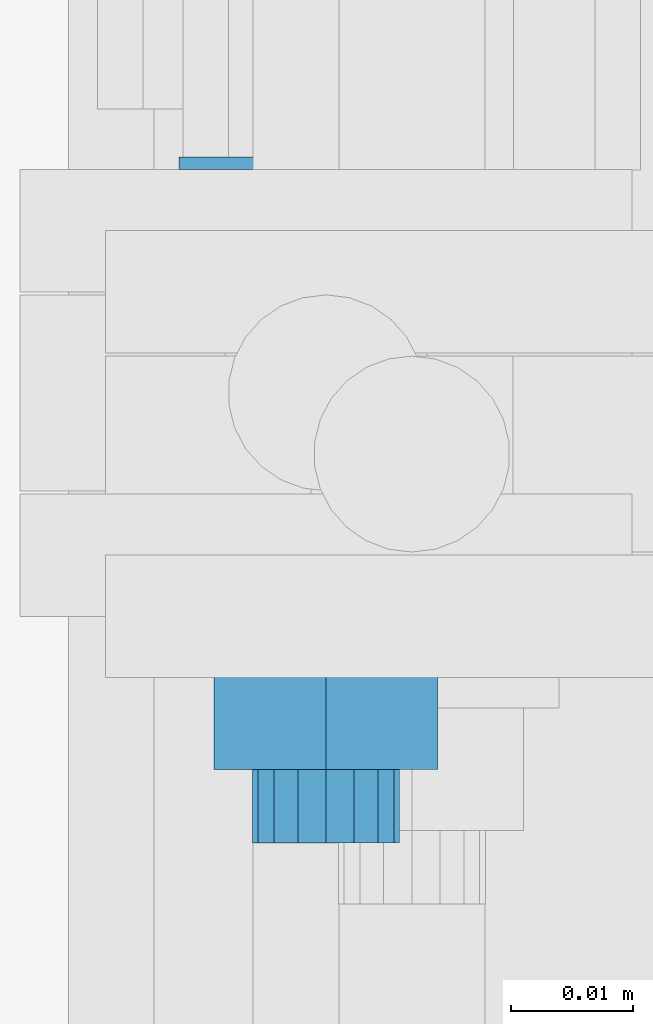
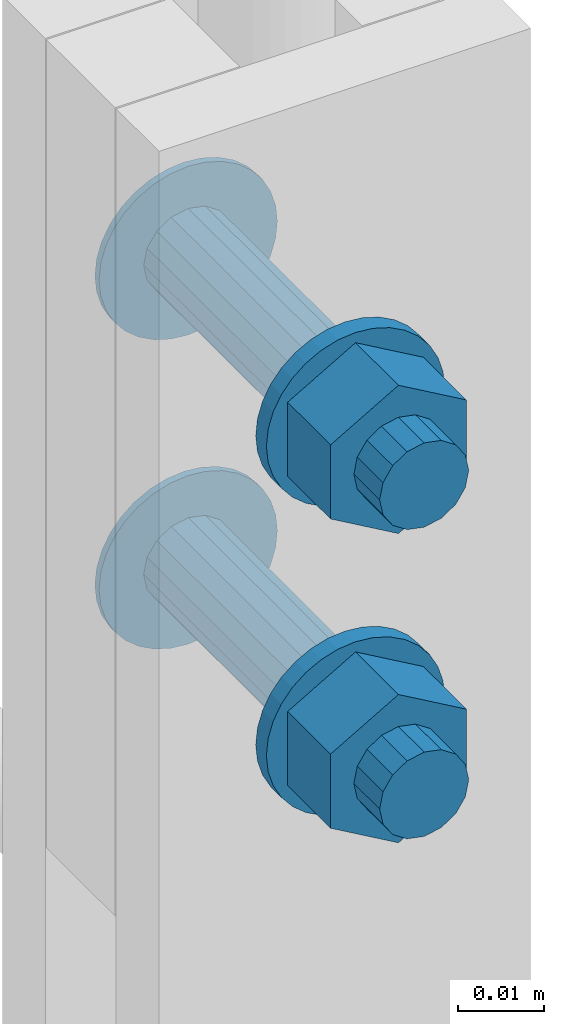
# One storey, part 93 of 98: 1 mechanical fastener.
"""IFC2X3 building model written with IfcOpenShell, lengths in millimetres."""

from ifc_helpers import new_model, entity, si_unit, converted_unit, origin_with_axes, place, context, project, spatial, faceted_brep, element, save


model = new_model("IFC2X3")

# Units and contexts
model_context = context("Model", 3, precision=1e-09, world=origin_with_axes())
ifc_project = project(units=[si_unit("LENGTHUNIT", "METRE", prefix="MILLI"), si_unit("AREAUNIT", "SQUARE_METRE"), si_unit("VOLUMEUNIT", "CUBIC_METRE"), converted_unit("PLANEANGLEUNIT", "DEGREE", entity("IfcPlaneAngleMeasure", 0.01745329), si_unit("PLANEANGLEUNIT", "RADIAN"), dimensions=[0, 0, 0, 0, 0, 0, 0])], contexts=[model_context])

# Site, building, storey
site_placement = place(None, origin_with_axes())
site = spatial("IfcSite", under=ifc_project, at=site_placement, Name="Maybachstra?e 2, 71563 Affalterbach", CompositionType="ELEMENT")
building_placement = place(site_placement, origin_with_axes())
building = spatial("IfcBuilding", under=site, at=building_placement, Name="Struktur 1", CompositionType="ELEMENT")
storey_placement = place(building_placement, origin_with_axes())
storey = spatial("IfcBuildingStorey", under=building, at=storey_placement, Name="Default Storey", CompositionType="ELEMENT", Elevation=0.0)

# Mechanical fastener
mechanical_fastener_placement = place(None, origin_with_axes())
element("IfcMechanicalFastener", 1, at=mechanical_fastener_placement, inside=storey, ObjectType="-", NominalDiameter=12.0, NominalLength=55.0, context=model_context, shape_type="Brep", body=[
    faceted_brep([(12236.032157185, -107.75, 3832.6), (12236.032157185, -108.75, 3832.6), (12235.80158055, -108.75, 3830.258916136), (12235.80158055, -107.75, 3830.258916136), (12235.118711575, -108.75, 3828.007798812), (12235.118711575, -107.75, 3828.007798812), (12234.009792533, -108.75, 3825.933157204), (12234.009792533, -107.75, 3825.933157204), (12232.517438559, -108.75, 3824.114718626), (12232.517438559, -107.75, 3824.114718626), (12230.698999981, -108.75, 3822.622364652), (12230.698999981, -107.75, 3822.622364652), (12228.624358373, -108.75, 3821.51344561), (12228.624358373, -107.75, 3821.51344561), (12226.373241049, -108.75, 3820.830576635), (12226.373241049, -107.75, 3820.830576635), (12224.032157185, -108.75, 3820.6), (12224.032157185, -107.75, 3820.6), (12221.691073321, -108.75, 3820.830576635), (12221.691073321, -107.75, 3820.830576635), (12219.439955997, -108.75, 3821.51344561), (12219.439955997, -107.75, 3821.51344561), (12217.365314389, -108.75, 3822.622364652), (12217.365314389, -107.75, 3822.622364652), (12215.546875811, -108.75, 3824.114718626), (12215.546875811, -107.75, 3824.114718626), (12214.054521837, -108.75, 3825.933157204), (12214.054521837, -107.75, 3825.933157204), (12212.945602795, -108.75, 3828.007798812), (12212.945602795, -107.75, 3828.007798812), (12212.26273382, -108.75, 3830.258916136), (12212.26273382, -107.75, 3830.258916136), (12212.032157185, -108.75, 3832.6), (12212.032157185, -107.75, 3832.6), (12212.26273382, -108.75, 3834.941083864), (12212.26273382, -107.75, 3834.941083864), (12212.945602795, -108.75, 3837.192201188), (12212.945602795, -107.75, 3837.192201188), (12214.054521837, -108.75, 3839.266842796), (12214.054521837, -107.75, 3839.266842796), (12215.546875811, -108.75, 3841.085281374), (12215.546875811, -107.75, 3841.085281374), (12217.365314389, -108.75, 3842.577635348), (12217.365314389, -107.75, 3842.577635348), (12219.439955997, -108.75, 3843.68655439), (12219.439955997, -107.75, 3843.68655439), (12221.691073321, -108.75, 3844.369423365), (12221.691073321, -107.75, 3844.369423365), (12224.032157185, -108.75, 3844.6), (12224.032157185, -107.75, 3844.6), (12226.373241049, -108.75, 3844.369423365), (12226.373241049, -107.75, 3844.369423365), (12228.624358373, -108.75, 3843.68655439), (12228.624358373, -107.75, 3843.68655439), (12230.698999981, -108.75, 3842.577635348), (12230.698999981, -107.75, 3842.577635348), (12232.517438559, -108.75, 3841.085281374), (12232.517438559, -107.75, 3841.085281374), (12234.009792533, -108.75, 3839.266842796), (12234.009792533, -107.75, 3839.266842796), (12235.118711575, -108.75, 3837.192201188), (12235.118711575, -107.75, 3837.192201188), (12235.80158055, -108.75, 3834.941083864), (12235.80158055, -107.75, 3834.941083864)], [[[0, 1, 2, 3]], [[3, 2, 4, 5]], [[5, 4, 6, 7]], [[7, 6, 8, 9]], [[9, 8, 10, 11]], [[11, 10, 12, 13]], [[13, 12, 14, 15]], [[15, 14, 16, 17]], [[17, 16, 18, 19]], [[19, 18, 20, 21]], [[21, 20, 22, 23]], [[23, 22, 24, 25]], [[25, 24, 26, 27]], [[27, 26, 28, 29]], [[29, 28, 30, 31]], [[31, 30, 32, 33]], [[33, 32, 34, 35]], [[35, 34, 36, 37]], [[37, 36, 38, 39]], [[39, 38, 40, 41]], [[41, 40, 42, 43]], [[43, 42, 44, 45]], [[45, 44, 46, 47]], [[47, 46, 48, 49]], [[49, 48, 50, 51]], [[51, 50, 52, 53]], [[53, 52, 54, 55]], [[55, 54, 56, 57]], [[57, 56, 58, 59]], [[59, 58, 60, 61]], [[61, 60, 62, 63]], [[63, 62, 1, 0]], [[0, 3, 5, 7, 9, 11, 13, 15, 17, 19, 21, 23, 25, 27, 29, 31, 33, 35, 37, 39, 41, 43, 45, 47, 49, 51, 53, 55, 57, 59, 61, 63]], [[1, 62, 60, 58, 56, 54, 52, 50, 48, 46, 44, 42, 40, 38, 36, 34, 32, 30, 28, 26, 24, 22, 20, 18, 16, 14, 12, 10, 8, 6, 4, 2]]]),
    faceted_brep([(12236.032157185, -107.75, 3788.6), (12236.032157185, -108.75, 3788.6), (12235.80158055, -108.75, 3786.258916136), (12235.80158055, -107.75, 3786.258916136), (12235.118711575, -108.75, 3784.007798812), (12235.118711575, -107.75, 3784.007798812), (12234.009792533, -108.75, 3781.933157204), (12234.009792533, -107.75, 3781.933157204), (12232.517438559, -108.75, 3780.114718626), (12232.517438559, -107.75, 3780.114718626), (12230.698999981, -108.75, 3778.622364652), (12230.698999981, -107.75, 3778.622364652), (12228.624358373, -108.75, 3777.51344561), (12228.624358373, -107.75, 3777.51344561), (12226.373241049, -108.75, 3776.830576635), (12226.373241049, -107.75, 3776.830576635), (12224.032157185, -108.75, 3776.6), (12224.032157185, -107.75, 3776.6), (12221.691073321, -108.75, 3776.830576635), (12221.691073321, -107.75, 3776.830576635), (12219.439955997, -108.75, 3777.51344561), (12219.439955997, -107.75, 3777.51344561), (12217.365314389, -108.75, 3778.622364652), (12217.365314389, -107.75, 3778.622364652), (12215.546875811, -108.75, 3780.114718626), (12215.546875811, -107.75, 3780.114718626), (12214.054521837, -108.75, 3781.933157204), (12214.054521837, -107.75, 3781.933157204), (12212.945602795, -108.75, 3784.007798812), (12212.945602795, -107.75, 3784.007798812), (12212.26273382, -108.75, 3786.258916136), (12212.26273382, -107.75, 3786.258916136), (12212.032157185, -108.75, 3788.6), (12212.032157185, -107.75, 3788.6), (12212.26273382, -108.75, 3790.941083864), (12212.26273382, -107.75, 3790.941083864), (12212.945602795, -108.75, 3793.192201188), (12212.945602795, -107.75, 3793.192201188), (12214.054521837, -108.75, 3795.266842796), (12214.054521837, -107.75, 3795.266842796), (12215.546875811, -108.75, 3797.085281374), (12215.546875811, -107.75, 3797.085281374), (12217.365314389, -108.75, 3798.577635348), (12217.365314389, -107.75, 3798.577635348), (12219.439955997, -108.75, 3799.68655439), (12219.439955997, -107.75, 3799.68655439), (12221.691073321, -108.75, 3800.369423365), (12221.691073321, -107.75, 3800.369423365), (12224.032157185, -108.75, 3800.6), (12224.032157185, -107.75, 3800.6), (12226.373241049, -108.75, 3800.369423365), (12226.373241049, -107.75, 3800.369423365), (12228.624358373, -108.75, 3799.68655439), (12228.624358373, -107.75, 3799.68655439), (12230.698999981, -108.75, 3798.577635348), (12230.698999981, -107.75, 3798.577635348), (12232.517438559, -108.75, 3797.085281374), (12232.517438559, -107.75, 3797.085281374), (12234.009792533, -108.75, 3795.266842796), (12234.009792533, -107.75, 3795.266842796), (12235.118711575, -108.75, 3793.192201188), (12235.118711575, -107.75, 3793.192201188), (12235.80158055, -108.75, 3790.941083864), (12235.80158055, -107.75, 3790.941083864)], [[[0, 1, 2, 3]], [[3, 2, 4, 5]], [[5, 4, 6, 7]], [[7, 6, 8, 9]], [[9, 8, 10, 11]], [[11, 10, 12, 13]], [[13, 12, 14, 15]], [[15, 14, 16, 17]], [[17, 16, 18, 19]], [[19, 18, 20, 21]], [[21, 20, 22, 23]], [[23, 22, 24, 25]], [[25, 24, 26, 27]], [[27, 26, 28, 29]], [[29, 28, 30, 31]], [[31, 30, 32, 33]], [[33, 32, 34, 35]], [[35, 34, 36, 37]], [[37, 36, 38, 39]], [[39, 38, 40, 41]], [[41, 40, 42, 43]], [[43, 42, 44, 45]], [[45, 44, 46, 47]], [[47, 46, 48, 49]], [[49, 48, 50, 51]], [[51, 50, 52, 53]], [[53, 52, 54, 55]], [[55, 54, 56, 57]], [[57, 56, 58, 59]], [[59, 58, 60, 61]], [[61, 60, 62, 63]], [[63, 62, 1, 0]], [[0, 3, 5, 7, 9, 11, 13, 15, 17, 19, 21, 23, 25, 27, 29, 31, 33, 35, 37, 39, 41, 43, 45, 47, 49, 51, 53, 55, 57, 59, 61, 63]], [[1, 62, 60, 58, 56, 54, 52, 50, 48, 46, 44, 42, 40, 38, 36, 34, 32, 30, 28, 26, 24, 22, 20, 18, 16, 14, 12, 10, 8, 6, 4, 2]]]),
    faceted_brep([(12230.032157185, -108.75, 3832.6), (12230.032157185, -145.25, 3832.6), (12229.57543438, -145.25, 3830.303899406), (12229.57543438, -108.75, 3830.303899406), (12228.274797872, -145.25, 3828.357359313), (12228.274797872, -108.75, 3828.357359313), (12226.328257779, -145.25, 3827.056722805), (12226.328257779, -108.75, 3827.056722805), (12224.032157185, -145.25, 3826.6), (12224.032157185, -108.75, 3826.6), (12221.736056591, -145.25, 3827.056722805), (12221.736056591, -108.75, 3827.056722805), (12219.789516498, -145.25, 3828.357359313), (12219.789516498, -108.75, 3828.357359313), (12218.48887999, -145.25, 3830.303899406), (12218.48887999, -108.75, 3830.303899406), (12218.032157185, -145.25, 3832.6), (12218.032157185, -108.75, 3832.6), (12218.48887999, -145.25, 3834.896100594), (12218.48887999, -108.75, 3834.896100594), (12219.789516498, -145.25, 3836.842640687), (12219.789516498, -108.75, 3836.842640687), (12221.736056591, -145.25, 3838.143277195), (12221.736056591, -108.75, 3838.143277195), (12224.032157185, -145.25, 3838.6), (12224.032157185, -108.75, 3838.6), (12226.328257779, -145.25, 3838.143277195), (12226.328257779, -108.75, 3838.143277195), (12228.274797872, -145.25, 3836.842640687), (12228.274797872, -108.75, 3836.842640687), (12229.57543438, -145.25, 3834.896100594), (12229.57543438, -108.75, 3834.896100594)], [[[0, 1, 2, 3]], [[3, 2, 4, 5]], [[5, 4, 6, 7]], [[7, 6, 8, 9]], [[9, 8, 10, 11]], [[11, 10, 12, 13]], [[13, 12, 14, 15]], [[15, 14, 16, 17]], [[17, 16, 18, 19]], [[19, 18, 20, 21]], [[21, 20, 22, 23]], [[23, 22, 24, 25]], [[25, 24, 26, 27]], [[27, 26, 28, 29]], [[29, 28, 30, 31]], [[31, 30, 1, 0]], [[0, 3, 5, 7, 9, 11, 13, 15, 17, 19, 21, 23, 25, 27, 29, 31]], [[1, 30, 28, 26, 24, 22, 20, 18, 16, 14, 12, 10, 8, 6, 4, 2]]]),
    faceted_brep([(12230.032157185, -108.75, 3788.6), (12230.032157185, -145.25, 3788.6), (12229.57543438, -145.25, 3786.303899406), (12229.57543438, -108.75, 3786.303899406), (12228.274797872, -145.25, 3784.357359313), (12228.274797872, -108.75, 3784.357359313), (12226.328257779, -145.25, 3783.056722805), (12226.328257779, -108.75, 3783.056722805), (12224.032157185, -145.25, 3782.6), (12224.032157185, -108.75, 3782.6), (12221.736056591, -145.25, 3783.056722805), (12221.736056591, -108.75, 3783.056722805), (12219.789516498, -145.25, 3784.357359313), (12219.789516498, -108.75, 3784.357359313), (12218.48887999, -145.25, 3786.303899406), (12218.48887999, -108.75, 3786.303899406), (12218.032157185, -145.25, 3788.6), (12218.032157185, -108.75, 3788.6), (12218.48887999, -145.25, 3790.896100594), (12218.48887999, -108.75, 3790.896100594), (12219.789516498, -145.25, 3792.842640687), (12219.789516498, -108.75, 3792.842640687), (12221.736056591, -145.25, 3794.143277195), (12221.736056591, -108.75, 3794.143277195), (12224.032157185, -145.25, 3794.6), (12224.032157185, -108.75, 3794.6), (12226.328257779, -145.25, 3794.143277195), (12226.328257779, -108.75, 3794.143277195), (12228.274797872, -145.25, 3792.842640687), (12228.274797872, -108.75, 3792.842640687), (12229.57543438, -145.25, 3790.896100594), (12229.57543438, -108.75, 3790.896100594)], [[[0, 1, 2, 3]], [[3, 2, 4, 5]], [[5, 4, 6, 7]], [[7, 6, 8, 9]], [[9, 8, 10, 11]], [[11, 10, 12, 13]], [[13, 12, 14, 15]], [[15, 14, 16, 17]], [[17, 16, 18, 19]], [[19, 18, 20, 21]], [[21, 20, 22, 23]], [[23, 22, 24, 25]], [[25, 24, 26, 27]], [[27, 26, 28, 29]], [[29, 28, 30, 31]], [[31, 30, 1, 0]], [[0, 3, 5, 7, 9, 11, 13, 15, 17, 19, 21, 23, 25, 27, 29, 31]], [[1, 30, 28, 26, 24, 22, 20, 18, 16, 14, 12, 10, 8, 6, 4, 2]]]),
    faceted_brep([(12236.032157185, -145.25, 3832.6), (12236.032157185, -147.75, 3832.6), (12235.80158055, -147.75, 3830.258916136), (12235.80158055, -145.25, 3830.258916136), (12235.118711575, -147.75, 3828.007798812), (12235.118711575, -145.25, 3828.007798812), (12234.009792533, -147.75, 3825.933157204), (12234.009792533, -145.25, 3825.933157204), (12232.517438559, -147.75, 3824.114718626), (12232.517438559, -145.25, 3824.114718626), (12230.698999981, -147.75, 3822.622364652), (12230.698999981, -145.25, 3822.622364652), (12228.624358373, -147.75, 3821.51344561), (12228.624358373, -145.25, 3821.51344561), (12226.373241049, -147.75, 3820.830576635), (12226.373241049, -145.25, 3820.830576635), (12224.032157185, -147.75, 3820.6), (12224.032157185, -145.25, 3820.6), (12221.691073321, -147.75, 3820.830576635), (12221.691073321, -145.25, 3820.830576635), (12219.439955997, -147.75, 3821.51344561), (12219.439955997, -145.25, 3821.51344561), (12217.365314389, -147.75, 3822.622364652), (12217.365314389, -145.25, 3822.622364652), (12215.546875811, -147.75, 3824.114718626), (12215.546875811, -145.25, 3824.114718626), (12214.054521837, -147.75, 3825.933157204), (12214.054521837, -145.25, 3825.933157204), (12212.945602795, -147.75, 3828.007798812), (12212.945602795, -145.25, 3828.007798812), (12212.26273382, -147.75, 3830.258916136), (12212.26273382, -145.25, 3830.258916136), (12212.032157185, -147.75, 3832.6), (12212.032157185, -145.25, 3832.6), (12212.26273382, -147.75, 3834.941083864), (12212.26273382, -145.25, 3834.941083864), (12212.945602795, -147.75, 3837.192201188), (12212.945602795, -145.25, 3837.192201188), (12214.054521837, -147.75, 3839.266842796), (12214.054521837, -145.25, 3839.266842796), (12215.546875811, -147.75, 3841.085281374), (12215.546875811, -145.25, 3841.085281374), (12217.365314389, -147.75, 3842.577635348), (12217.365314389, -145.25, 3842.577635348), (12219.439955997, -147.75, 3843.68655439), (12219.439955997, -145.25, 3843.68655439), (12221.691073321, -147.75, 3844.369423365), (12221.691073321, -145.25, 3844.369423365), (12224.032157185, -147.75, 3844.6), (12224.032157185, -145.25, 3844.6), (12226.373241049, -147.75, 3844.369423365), (12226.373241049, -145.25, 3844.369423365), (12228.624358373, -147.75, 3843.68655439), (12228.624358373, -145.25, 3843.68655439), (12230.698999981, -147.75, 3842.577635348), (12230.698999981, -145.25, 3842.577635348), (12232.517438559, -147.75, 3841.085281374), (12232.517438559, -145.25, 3841.085281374), (12234.009792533, -147.75, 3839.266842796), (12234.009792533, -145.25, 3839.266842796), (12235.118711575, -147.75, 3837.192201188), (12235.118711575, -145.25, 3837.192201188), (12235.80158055, -147.75, 3834.941083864), (12235.80158055, -145.25, 3834.941083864)], [[[0, 1, 2, 3]], [[3, 2, 4, 5]], [[5, 4, 6, 7]], [[7, 6, 8, 9]], [[9, 8, 10, 11]], [[11, 10, 12, 13]], [[13, 12, 14, 15]], [[15, 14, 16, 17]], [[17, 16, 18, 19]], [[19, 18, 20, 21]], [[21, 20, 22, 23]], [[23, 22, 24, 25]], [[25, 24, 26, 27]], [[27, 26, 28, 29]], [[29, 28, 30, 31]], [[31, 30, 32, 33]], [[33, 32, 34, 35]], [[35, 34, 36, 37]], [[37, 36, 38, 39]], [[39, 38, 40, 41]], [[41, 40, 42, 43]], [[43, 42, 44, 45]], [[45, 44, 46, 47]], [[47, 46, 48, 49]], [[49, 48, 50, 51]], [[51, 50, 52, 53]], [[53, 52, 54, 55]], [[55, 54, 56, 57]], [[57, 56, 58, 59]], [[59, 58, 60, 61]], [[61, 60, 62, 63]], [[63, 62, 1, 0]], [[0, 3, 5, 7, 9, 11, 13, 15, 17, 19, 21, 23, 25, 27, 29, 31, 33, 35, 37, 39, 41, 43, 45, 47, 49, 51, 53, 55, 57, 59, 61, 63]], [[1, 62, 60, 58, 56, 54, 52, 50, 48, 46, 44, 42, 40, 38, 36, 34, 32, 30, 28, 26, 24, 22, 20, 18, 16, 14, 12, 10, 8, 6, 4, 2]]]),
    faceted_brep([(12236.032157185, -145.25, 3788.6), (12236.032157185, -147.75, 3788.6), (12235.80158055, -147.75, 3786.258916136), (12235.80158055, -145.25, 3786.258916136), (12235.118711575, -147.75, 3784.007798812), (12235.118711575, -145.25, 3784.007798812), (12234.009792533, -147.75, 3781.933157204), (12234.009792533, -145.25, 3781.933157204), (12232.517438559, -147.75, 3780.114718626), (12232.517438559, -145.25, 3780.114718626), (12230.698999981, -147.75, 3778.622364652), (12230.698999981, -145.25, 3778.622364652), (12228.624358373, -147.75, 3777.51344561), (12228.624358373, -145.25, 3777.51344561), (12226.373241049, -147.75, 3776.830576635), (12226.373241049, -145.25, 3776.830576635), (12224.032157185, -147.75, 3776.6), (12224.032157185, -145.25, 3776.6), (12221.691073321, -147.75, 3776.830576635), (12221.691073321, -145.25, 3776.830576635), (12219.439955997, -147.75, 3777.51344561), (12219.439955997, -145.25, 3777.51344561), (12217.365314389, -147.75, 3778.622364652), (12217.365314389, -145.25, 3778.622364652), (12215.546875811, -147.75, 3780.114718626), (12215.546875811, -145.25, 3780.114718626), (12214.054521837, -147.75, 3781.933157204), (12214.054521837, -145.25, 3781.933157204), (12212.945602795, -147.75, 3784.007798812), (12212.945602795, -145.25, 3784.007798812), (12212.26273382, -147.75, 3786.258916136), (12212.26273382, -145.25, 3786.258916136), (12212.032157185, -147.75, 3788.6), (12212.032157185, -145.25, 3788.6), (12212.26273382, -147.75, 3790.941083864), (12212.26273382, -145.25, 3790.941083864), (12212.945602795, -147.75, 3793.192201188), (12212.945602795, -145.25, 3793.192201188), (12214.054521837, -147.75, 3795.266842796), (12214.054521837, -145.25, 3795.266842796), (12215.546875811, -147.75, 3797.085281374), (12215.546875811, -145.25, 3797.085281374), (12217.365314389, -147.75, 3798.577635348), (12217.365314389, -145.25, 3798.577635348), (12219.439955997, -147.75, 3799.68655439), (12219.439955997, -145.25, 3799.68655439), (12221.691073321, -147.75, 3800.369423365), (12221.691073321, -145.25, 3800.369423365), (12224.032157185, -147.75, 3800.6), (12224.032157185, -145.25, 3800.6), (12226.373241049, -147.75, 3800.369423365), (12226.373241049, -145.25, 3800.369423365), (12228.624358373, -147.75, 3799.68655439), (12228.624358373, -145.25, 3799.68655439), (12230.698999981, -147.75, 3798.577635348), (12230.698999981, -145.25, 3798.577635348), (12232.517438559, -147.75, 3797.085281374), (12232.517438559, -145.25, 3797.085281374), (12234.009792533, -147.75, 3795.266842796), (12234.009792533, -145.25, 3795.266842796), (12235.118711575, -147.75, 3793.192201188), (12235.118711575, -145.25, 3793.192201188), (12235.80158055, -147.75, 3790.941083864), (12235.80158055, -145.25, 3790.941083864)], [[[0, 1, 2, 3]], [[3, 2, 4, 5]], [[5, 4, 6, 7]], [[7, 6, 8, 9]], [[9, 8, 10, 11]], [[11, 10, 12, 13]], [[13, 12, 14, 15]], [[15, 14, 16, 17]], [[17, 16, 18, 19]], [[19, 18, 20, 21]], [[21, 20, 22, 23]], [[23, 22, 24, 25]], [[25, 24, 26, 27]], [[27, 26, 28, 29]], [[29, 28, 30, 31]], [[31, 30, 32, 33]], [[33, 32, 34, 35]], [[35, 34, 36, 37]], [[37, 36, 38, 39]], [[39, 38, 40, 41]], [[41, 40, 42, 43]], [[43, 42, 44, 45]], [[45, 44, 46, 47]], [[47, 46, 48, 49]], [[49, 48, 50, 51]], [[51, 50, 52, 53]], [[53, 52, 54, 55]], [[55, 54, 56, 57]], [[57, 56, 58, 59]], [[59, 58, 60, 61]], [[61, 60, 62, 63]], [[63, 62, 1, 0]], [[0, 3, 5, 7, 9, 11, 13, 15, 17, 19, 21, 23, 25, 27, 29, 31, 33, 35, 37, 39, 41, 43, 45, 47, 49, 51, 53, 55, 57, 59, 61, 63]], [[1, 62, 60, 58, 56, 54, 52, 50, 48, 46, 44, 42, 40, 38, 36, 34, 32, 30, 28, 26, 24, 22, 20, 18, 16, 14, 12, 10, 8, 6, 4, 2]]]),
    faceted_brep([(12214.895589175, -157.75, 3827.325), (12214.895589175, -147.75, 3827.325), (12224.032157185, -147.75, 3822.05), (12224.032157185, -157.75, 3822.05), (12233.168725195, -147.75, 3827.325), (12233.168725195, -157.75, 3827.325), (12233.168725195, -147.75, 3837.875), (12233.168725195, -157.75, 3837.875), (12224.032157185, -147.75, 3843.15), (12224.032157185, -157.75, 3843.15), (12214.895589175, -147.75, 3837.875), (12214.895589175, -157.75, 3837.875)], [[[0, 1, 2, 3]], [[3, 2, 4, 5]], [[5, 4, 6, 7]], [[7, 6, 8, 9]], [[9, 8, 10, 11]], [[11, 10, 1, 0]], [[4, 2, 1, 10, 8, 6]], [[0, 3, 5, 7, 9, 11]]]),
    faceted_brep([(12214.895589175, -157.75, 3783.325), (12214.895589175, -147.75, 3783.325), (12224.032157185, -147.75, 3778.05), (12224.032157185, -157.75, 3778.05), (12233.168725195, -147.75, 3783.325), (12233.168725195, -157.75, 3783.325), (12233.168725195, -147.75, 3793.875), (12233.168725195, -157.75, 3793.875), (12224.032157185, -147.75, 3799.15), (12224.032157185, -157.75, 3799.15), (12214.895589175, -147.75, 3793.875), (12214.895589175, -157.75, 3793.875)], [[[0, 1, 2, 3]], [[3, 2, 4, 5]], [[5, 4, 6, 7]], [[7, 6, 8, 9]], [[9, 8, 10, 11]], [[11, 10, 1, 0]], [[4, 2, 1, 10, 8, 6]], [[0, 3, 5, 7, 9, 11]]]),
    faceted_brep([(12230.032157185, -157.75, 3832.6), (12230.032157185, -163.75, 3832.6), (12229.57543438, -163.75, 3830.303899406), (12229.57543438, -157.75, 3830.303899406), (12228.274797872, -163.75, 3828.357359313), (12228.274797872, -157.75, 3828.357359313), (12226.328257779, -163.75, 3827.056722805), (12226.328257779, -157.75, 3827.056722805), (12224.032157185, -163.75, 3826.6), (12224.032157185, -157.75, 3826.6), (12221.736056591, -163.75, 3827.056722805), (12221.736056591, -157.75, 3827.056722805), (12219.789516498, -163.75, 3828.357359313), (12219.789516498, -157.75, 3828.357359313), (12218.48887999, -163.75, 3830.303899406), (12218.48887999, -157.75, 3830.303899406), (12218.032157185, -163.75, 3832.6), (12218.032157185, -157.75, 3832.6), (12218.48887999, -163.75, 3834.896100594), (12218.48887999, -157.75, 3834.896100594), (12219.789516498, -163.75, 3836.842640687), (12219.789516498, -157.75, 3836.842640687), (12221.736056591, -163.75, 3838.143277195), (12221.736056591, -157.75, 3838.143277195), (12224.032157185, -163.75, 3838.6), (12224.032157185, -157.75, 3838.6), (12226.328257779, -163.75, 3838.143277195), (12226.328257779, -157.75, 3838.143277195), (12228.274797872, -163.75, 3836.842640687), (12228.274797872, -157.75, 3836.842640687), (12229.57543438, -163.75, 3834.896100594), (12229.57543438, -157.75, 3834.896100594)], [[[0, 1, 2, 3]], [[3, 2, 4, 5]], [[5, 4, 6, 7]], [[7, 6, 8, 9]], [[9, 8, 10, 11]], [[11, 10, 12, 13]], [[13, 12, 14, 15]], [[15, 14, 16, 17]], [[17, 16, 18, 19]], [[19, 18, 20, 21]], [[21, 20, 22, 23]], [[23, 22, 24, 25]], [[25, 24, 26, 27]], [[27, 26, 28, 29]], [[29, 28, 30, 31]], [[31, 30, 1, 0]], [[0, 3, 5, 7, 9, 11, 13, 15, 17, 19, 21, 23, 25, 27, 29, 31]], [[1, 30, 28, 26, 24, 22, 20, 18, 16, 14, 12, 10, 8, 6, 4, 2]]]),
    faceted_brep([(12230.032157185, -157.75, 3788.6), (12230.032157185, -163.75, 3788.6), (12229.57543438, -163.75, 3786.303899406), (12229.57543438, -157.75, 3786.303899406), (12228.274797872, -163.75, 3784.357359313), (12228.274797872, -157.75, 3784.357359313), (12226.328257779, -163.75, 3783.056722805), (12226.328257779, -157.75, 3783.056722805), (12224.032157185, -163.75, 3782.6), (12224.032157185, -157.75, 3782.6), (12221.736056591, -163.75, 3783.056722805), (12221.736056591, -157.75, 3783.056722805), (12219.789516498, -163.75, 3784.357359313), (12219.789516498, -157.75, 3784.357359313), (12218.48887999, -163.75, 3786.303899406), (12218.48887999, -157.75, 3786.303899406), (12218.032157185, -163.75, 3788.6), (12218.032157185, -157.75, 3788.6), (12218.48887999, -163.75, 3790.896100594), (12218.48887999, -157.75, 3790.896100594), (12219.789516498, -163.75, 3792.842640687), (12219.789516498, -157.75, 3792.842640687), (12221.736056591, -163.75, 3794.143277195), (12221.736056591, -157.75, 3794.143277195), (12224.032157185, -163.75, 3794.6), (12224.032157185, -157.75, 3794.6), (12226.328257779, -163.75, 3794.143277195), (12226.328257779, -157.75, 3794.143277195), (12228.274797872, -163.75, 3792.842640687), (12228.274797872, -157.75, 3792.842640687), (12229.57543438, -163.75, 3790.896100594), (12229.57543438, -157.75, 3790.896100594)], [[[0, 1, 2, 3]], [[3, 2, 4, 5]], [[5, 4, 6, 7]], [[7, 6, 8, 9]], [[9, 8, 10, 11]], [[11, 10, 12, 13]], [[13, 12, 14, 15]], [[15, 14, 16, 17]], [[17, 16, 18, 19]], [[19, 18, 20, 21]], [[21, 20, 22, 23]], [[23, 22, 24, 25]], [[25, 24, 26, 27]], [[27, 26, 28, 29]], [[29, 28, 30, 31]], [[31, 30, 1, 0]], [[0, 3, 5, 7, 9, 11, 13, 15, 17, 19, 21, 23, 25, 27, 29, 31]], [[1, 30, 28, 26, 24, 22, 20, 18, 16, 14, 12, 10, 8, 6, 4, 2]]]),
])

save(model, "model.ifc")
